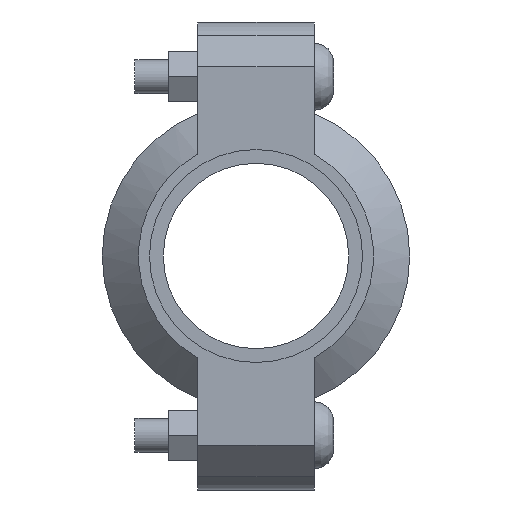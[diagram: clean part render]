
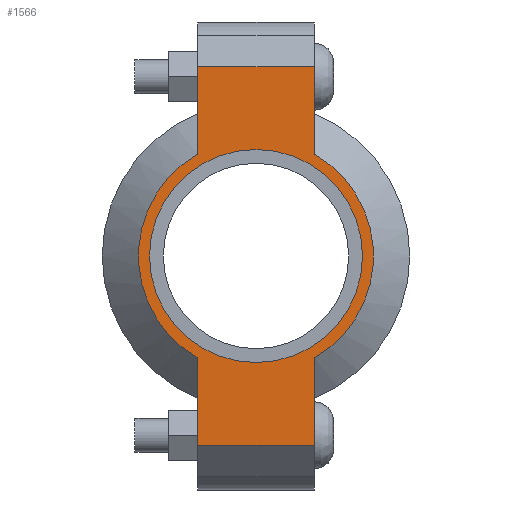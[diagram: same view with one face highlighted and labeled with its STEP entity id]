
A CAD part, left-side view. The second image highlights one B-rep face of the part: STEP entity #1566.
In plain terms, the highlighted planar face has unit normal (-1, 0, 0) as drawn and (0, 0, 1) by its records, which use the part's own axes.
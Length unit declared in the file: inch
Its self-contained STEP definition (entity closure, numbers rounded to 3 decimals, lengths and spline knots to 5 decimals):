
#190=LINE('',#2724,#283);
#198=LINE('',#2760,#291);
#205=LINE('',#2781,#298);
#214=LINE('',#2813,#307);
#215=LINE('',#2817,#308);
#216=LINE('',#2819,#309);
#283=VECTOR('',#2216,0.3937);
#291=VECTOR('',#2232,0.3937);
#298=VECTOR('',#2251,0.3937);
#307=VECTOR('',#2276,0.3937);
#308=VECTOR('',#2281,0.3937);
#309=VECTOR('',#2282,0.3937);
#365=FACE_BOUND('',#543,.T.);
#437=FACE_OUTER_BOUND('',#542,.T.);
#542=EDGE_LOOP('',(#1307,#1308,#1309,#1310,#1311,#1312,#1313,#1314));
#543=EDGE_LOOP('',(#1315));
#615=CIRCLE('',#1776,1.1875);
#641=CIRCLE('',#1835,1.31);
#642=CIRCLE('',#1836,1.31);
#707=VERTEX_POINT('',#2540);
#750=VERTEX_POINT('',#2721);
#751=VERTEX_POINT('',#2723);
#762=VERTEX_POINT('',#2755);
#763=VERTEX_POINT('',#2759);
#770=VERTEX_POINT('',#2778);
#771=VERTEX_POINT('',#2780);
#781=VERTEX_POINT('',#2816);
#782=VERTEX_POINT('',#2818);
#863=EDGE_CURVE('',#707,#707,#615,.T.);
#924=EDGE_CURVE('',#751,#750,#190,.T.);
#938=EDGE_CURVE('',#763,#762,#198,.T.);
#948=EDGE_CURVE('',#771,#770,#205,.T.);
#963=EDGE_CURVE('',#763,#750,#214,.T.);
#964=EDGE_CURVE('',#762,#771,#641,.T.);
#965=EDGE_CURVE('',#781,#770,#215,.T.);
#966=EDGE_CURVE('',#781,#782,#216,.T.);
#967=EDGE_CURVE('',#782,#751,#642,.T.);
#1307=ORIENTED_EDGE('',*,*,#963,.F.);
#1308=ORIENTED_EDGE('',*,*,#938,.T.);
#1309=ORIENTED_EDGE('',*,*,#964,.T.);
#1310=ORIENTED_EDGE('',*,*,#948,.T.);
#1311=ORIENTED_EDGE('',*,*,#965,.F.);
#1312=ORIENTED_EDGE('',*,*,#966,.T.);
#1313=ORIENTED_EDGE('',*,*,#967,.T.);
#1314=ORIENTED_EDGE('',*,*,#924,.T.);
#1315=ORIENTED_EDGE('',*,*,#863,.T.);
#1408=PLANE('',#1834);
#1566=ADVANCED_FACE('',(#437,#365),#1408,.T.);
#1776=AXIS2_PLACEMENT_3D('',#2542,#2092,#2093);
#1834=AXIS2_PLACEMENT_3D('',#2814,#2277,#2278);
#1835=AXIS2_PLACEMENT_3D('',#2815,#2279,#2280);
#1836=AXIS2_PLACEMENT_3D('',#2820,#2283,#2284);
#2092=DIRECTION('center_axis',(0.,0.,-1.));
#2093=DIRECTION('ref_axis',(-1.,0.,0.));
#2216=DIRECTION('',(-1.,0.,0.));
#2232=DIRECTION('',(1.,0.,0.));
#2251=DIRECTION('',(1.,0.,0.));
#2276=DIRECTION('',(0.,1.,0.));
#2277=DIRECTION('center_axis',(0.,0.,1.));
#2278=DIRECTION('ref_axis',(1.,0.,0.));
#2279=DIRECTION('center_axis',(0.,0.,1.));
#2280=DIRECTION('ref_axis',(-1.,0.,0.));
#2281=DIRECTION('',(0.,-1.,0.));
#2282=DIRECTION('',(-1.,0.,0.));
#2283=DIRECTION('center_axis',(0.,0.,1.));
#2284=DIRECTION('ref_axis',(-1.,0.,0.));
#2540=CARTESIAN_POINT('',(1.1875,0.,0.94));
#2542=CARTESIAN_POINT('Origin',(0.,0.,0.94));
#2721=CARTESIAN_POINT('',(-2.11,0.65,0.94));
#2723=CARTESIAN_POINT('',(-1.13737,0.65,0.94));
#2724=CARTESIAN_POINT('',(-2.61,0.65,0.94));
#2755=CARTESIAN_POINT('',(-1.13737,-0.65,0.94));
#2759=CARTESIAN_POINT('',(-2.11,-0.65,0.94));
#2760=CARTESIAN_POINT('',(2.61,-0.65,0.94));
#2778=CARTESIAN_POINT('',(2.11,-0.65,0.94));
#2780=CARTESIAN_POINT('',(1.13737,-0.65,0.94));
#2781=CARTESIAN_POINT('',(2.61,-0.65,0.94));
#2813=CARTESIAN_POINT('',(-2.11,0.325,0.94));
#2814=CARTESIAN_POINT('Origin',(0.,0.,0.94));
#2815=CARTESIAN_POINT('Origin',(0.,0.,0.94));
#2816=CARTESIAN_POINT('',(2.11,0.65,0.94));
#2817=CARTESIAN_POINT('',(2.11,-0.325,0.94));
#2818=CARTESIAN_POINT('',(1.13737,0.65,0.94));
#2819=CARTESIAN_POINT('',(-2.61,0.65,0.94));
#2820=CARTESIAN_POINT('Origin',(0.,0.,0.94));
